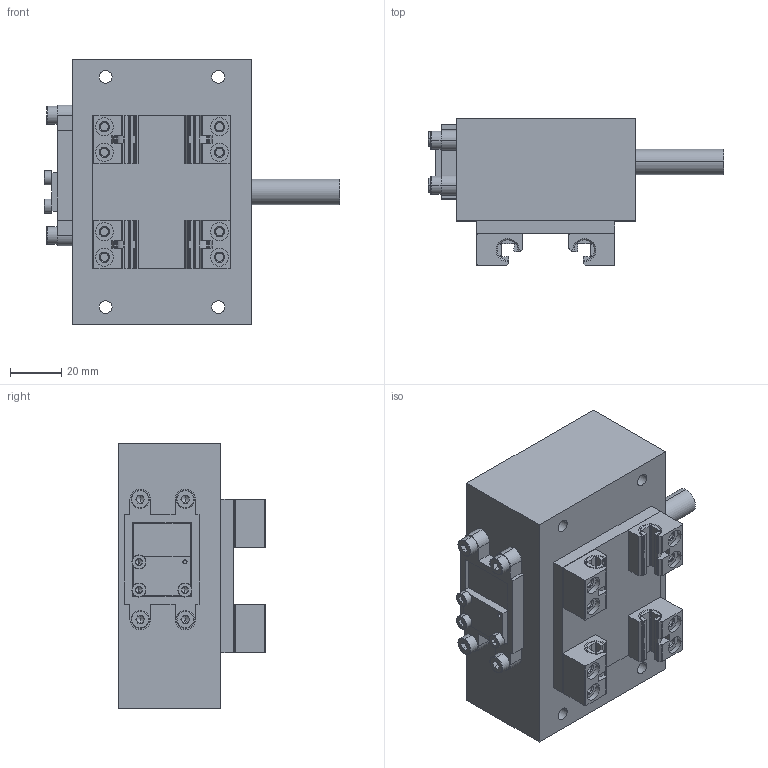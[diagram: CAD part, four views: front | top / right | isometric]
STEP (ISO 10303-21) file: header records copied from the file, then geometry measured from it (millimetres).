
FILE_DESCRIPTION (( 'STEP AP203' ), '1' );
FILE_NAME ('Assem_motor1_Default_sldprt.STEP', '2020-04-06T12:53:47', ( '' ), ( '' ), 'SwSTEP 2.0', 'SolidWorks 2018', '' );
FILE_SCHEMA (( 'CONFIG_CONTROL_DESIGN' ));
Length unit declared in the file: millimetre
Products named in the file (1): Assem_motor1_Default_sldprt
Bounding box: 115.5 x 57.5 x 104 mm (x, y, z)
Volume: 183690.9 mm3; surface area: 75651 mm2
Topology: 23 solids, 27 shells, 1462 faces, 3779 edges, 2440 vertices
Faces by surface type: plane 718, cylinder 550, cone 158, torus 28, bspline 8
Entity records: 45419 total; most frequent: CARTESIAN_POINT 8568, DIRECTION 7940, ORIENTED_EDGE 7530, EDGE_CURVE 3765, AXIS2_PLACEMENT_3D 2884, VERTEX_POINT 2440, LINE 2172, VECTOR 2172
